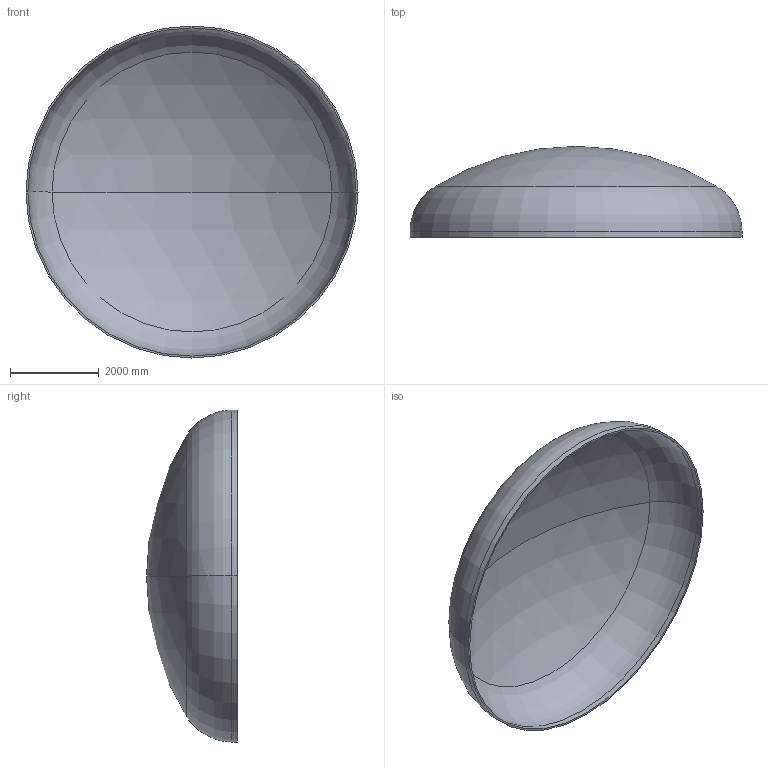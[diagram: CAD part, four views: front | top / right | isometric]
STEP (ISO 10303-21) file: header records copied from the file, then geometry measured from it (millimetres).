
FILE_DESCRIPTION (( 'STEP AP203' ), '1' );
FILE_NAME ('DIN 28013 Korbbogenform_-_Boden DIN 28013 - 7500 x 130 - I - s=42.step', '2016-07-04T10:53:56', ( '' ), ( '' ), 'SwSTEP 2.0', 'SolidWorks 2013', '' );
FILE_SCHEMA (( 'CONFIG_CONTROL_DESIGN' ));
Length unit declared in the file: millimetre
Products named in the file (1): DIN 28013 Korbbogenform_-_Boden DIN 28013 - 7500 x 130 - I - s=42
Bounding box: 7500 x 2054.21 x 7500 mm (x, y, z)
Volume: 2678886718.2 mm3; surface area: 128553738.6 mm2
Topology: 1 solids, 1 shells, 13 faces, 24 edges, 14 vertices
Faces by surface type: torus 4, cylinder 4, sphere 4, plane 1
Entity records: 407 total; most frequent: DIRECTION 72, CARTESIAN_POINT 52, ORIENTED_EDGE 48, AXIS2_PLACEMENT_3D 34, EDGE_CURVE 24, CIRCLE 20, EDGE_LOOP 14, VERTEX_POINT 14
